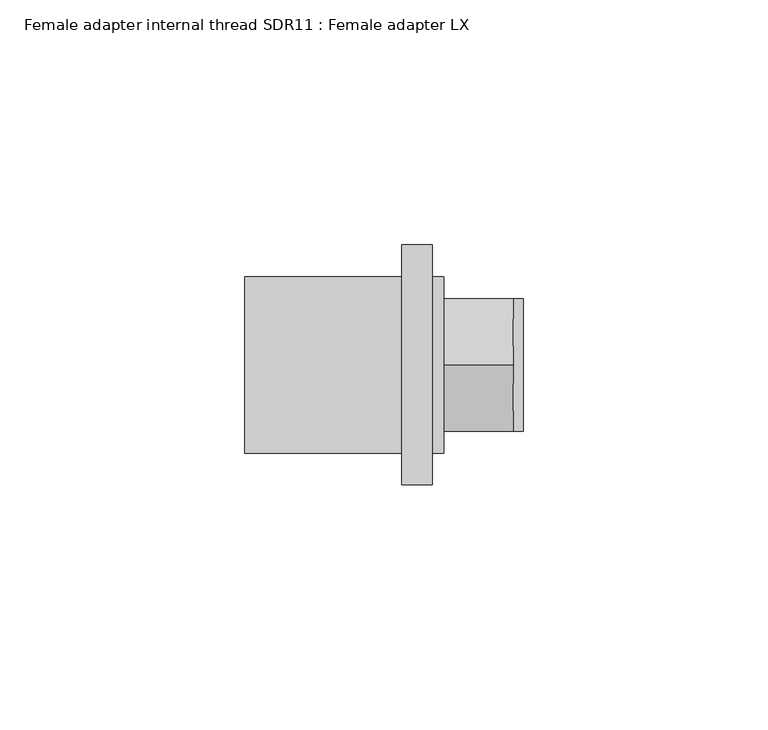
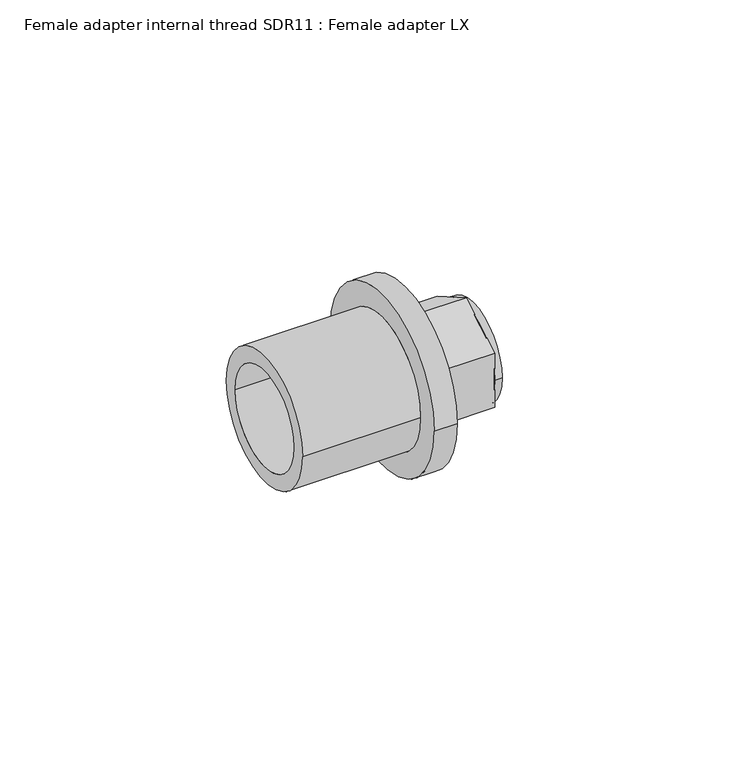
"""IFC4 building model written with IfcOpenShell, lengths in millimetres: pipe fitting geometry, Female adapter internal thread SDR11 : Female adapter LX."""

from ifc_helpers import new_model, si_unit, point, frame, origin, origin_2d, place, context, project, spatial, polyline, circle_curve, trimmed, segment, composite_curve, outline, extrude, source, transform, mapped, element, save
from ifc_brep_helpers import plane_surface, cylinder_surface, revolved_surface, advanced_brep


def female_adapter_internal_thread_sdr11_female_adapter_lx_052b0fb5(model_context):
    return source(origin(), model_context, "Body", "SolidModel", [
        extrude(outline(composite_curve([segment(trimmed(circle_curve(origin_2d(), 13.5), [point((13.5, 0.0))], [point((-13.5, 0.0))], False, "CARTESIAN"), True, "CONTINUOUS"), segment(trimmed(circle_curve(origin_2d(), 13.5), [point((-13.5, 0.0))], [point((13.5, 0.0))], False, "CARTESIAN"), True, "CONTINUOUS")], self_intersect=False), holes=[composite_curve([segment(trimmed(circle_curve(origin_2d(), 9.4), [point((9.4, 0.0))], [point((-9.4, 0.0))], True, "CARTESIAN"), True, "CONTINUOUS"), segment(trimmed(circle_curve(origin_2d(), 9.4), [point((-9.4, 0.0))], [point((9.4, 0.0))], True, "CARTESIAN"), True, "CONTINUOUS")], self_intersect=False)]), frame((14.2, 0.0, 0.0), z_axis=(1.0, 0.0, 0.0), x_axis=(0.0, 1.0, 0.0)), (0.0, 0.0, 1.0), 2.0),
        advanced_brep(
        [(-8.6, 18.0, 0.0), (-8.6, -18.0, 0.0), (-40.6, -18.0, 0.0), (-40.6, 18.0, 0.0), (-2.3, 24.5, 0.0), (-2.3, -24.5, 0.0), (-8.6, -24.5, 0.0), (-8.6, 24.5, 0.0), (0.0, 18.0, 0.0), (0.0, -18.0, 0.0), (-2.3, -18.0, 0.0), (-2.3, 18.0, 0.0), (-40.6, 13.75, 0.0), (-40.6, -13.75, 0.0), (0.0, -13.75, 0.0), (0.0, 13.75, 0.0)],
        [
            (0, 1, circle_curve(frame((-8.6, 0.0, 0.0), z_axis=(-1.0, 0.0, 0.0), x_axis=(0.0, -1.0, 0.0)), 18.0)),
            (1, 2),
            (2, 3, circle_curve(frame((-40.6, 0.0, 0.0), z_axis=(1.0, 0.0, 0.0), x_axis=(0.0, -1.0, 0.0)), 18.0)),
            (3, 0),
            (4, 5, circle_curve(frame((-2.3, 0.0, 0.0), z_axis=(-1.0, 0.0, 0.0), x_axis=(0.0, -1.0, 0.0)), 24.5)),
            (5, 6),
            (6, 7, circle_curve(frame((-8.6, 0.0, 0.0), z_axis=(1.0, 0.0, 0.0), x_axis=(0.0, -1.0, 0.0)), 24.5)),
            (7, 4),
            (8, 9, circle_curve(frame((0.0, 0.0, 0.0), z_axis=(-1.0, 0.0, 0.0), x_axis=(0.0, -1.0, 0.0)), 18.0)),
            (9, 10),
            (10, 11, circle_curve(frame((-2.3, 0.0, 0.0), z_axis=(1.0, 0.0, 0.0), x_axis=(0.0, -1.0, 0.0)), 18.0)),
            (11, 8),
            (12, 13, circle_curve(frame((-40.6, 0.0, 0.0), z_axis=(-1.0, 0.0, 0.0), x_axis=(0.0, -1.0, 0.0)), 13.75)),
            (13, 14),
            (14, 15, circle_curve(frame((0.0, 0.0, 0.0), z_axis=(1.0, 0.0, 0.0), x_axis=(0.0, -1.0, 0.0)), 13.75)),
            (15, 12),
            (2, 3, circle_curve(frame((-40.6, 0.0, 0.0), z_axis=(-1.0, 0.0, 0.0), x_axis=(0.0, 1.0, 0.0)), 18.0)),
            (12, 13, circle_curve(frame((-40.6, 0.0, 0.0), z_axis=(1.0, 0.0, 0.0), x_axis=(0.0, 1.0, 0.0)), 13.75)),
            (1, 0, circle_curve(frame((-8.6, 0.0, 0.0), z_axis=(-1.0, 0.0, 0.0), x_axis=(0.0, 1.0, 0.0)), 18.0)),
            (6, 7, circle_curve(frame((-8.6, 0.0, 0.0), z_axis=(-1.0, 0.0, 0.0), x_axis=(0.0, 1.0, 0.0)), 24.5)),
            (5, 4, circle_curve(frame((-2.3, 0.0, 0.0), z_axis=(-1.0, 0.0, 0.0), x_axis=(0.0, 1.0, 0.0)), 24.5)),
            (10, 11, circle_curve(frame((-2.3, 0.0, 0.0), z_axis=(-1.0, 0.0, 0.0), x_axis=(0.0, 1.0, 0.0)), 18.0)),
            (9, 8, circle_curve(frame((0.0, 0.0, 0.0), z_axis=(-1.0, 0.0, 0.0), x_axis=(0.0, 1.0, 0.0)), 18.0)),
            (14, 15, circle_curve(frame((0.0, 0.0, 0.0), z_axis=(-1.0, 0.0, 0.0), x_axis=(0.0, 1.0, 0.0)), 13.75)),
        ],
        [
            cylinder_surface(frame((0.0, 0.0, 0.0), z_axis=(1.0, 0.0, 0.0), x_axis=(0.0, -1.0, 0.0)), 18.0),
            cylinder_surface(frame((0.0, 0.0, 0.0), z_axis=(1.0, 0.0, 0.0), x_axis=(0.0, -1.0, 0.0)), 24.5),
            revolved_surface(polyline([(0.0, -13.75, 0.0), (-40.6, -13.75, 0.0)]), (0.0, 0.0, 0.0), (1.0, 0.0, 0.0)),
            plane_surface(frame((-40.6, 0.0, 0.0), z_axis=(-1.0, 0.0, 0.0), x_axis=(0.0, 1.0, 0.0))),
            cylinder_surface(frame((0.0, 0.0, 0.0), z_axis=(1.0, 0.0, 0.0), x_axis=(0.0, 1.0, 0.0)), 18.0),
            plane_surface(frame((-8.6, 0.0, 0.0), z_axis=(-1.0, 0.0, 0.0), x_axis=(0.0, 1.0, 0.0))),
            cylinder_surface(frame((0.0, 0.0, 0.0), z_axis=(1.0, 0.0, 0.0), x_axis=(0.0, 1.0, 0.0)), 24.5),
            plane_surface(frame((-2.3, 0.0, 0.0), z_axis=(1.0, 0.0, 0.0), x_axis=(0.0, 1.0, 0.0))),
            plane_surface(frame((0.0, 0.0, 0.0), z_axis=(1.0, 0.0, 0.0), x_axis=(0.0, 1.0, 0.0))),
            revolved_surface(polyline([(0.0, 13.75, 0.0), (-40.6, 13.75, 0.0)]), (0.0, 0.0, 0.0), (1.0, 0.0, 0.0)),
        ],
        [
            (0, [[1, 2, 3, 4]]),
            (1, [[5, 6, 7, 8]]),
            (0, [[9, 10, 11, 12]]),
            (2, [[13, 14, 15, 16]]),
            (3, [[17, -3], [18, -13]]),
            (4, [[19, -4, -17, -2]]),
            (5, [[20, -7], [-19, -1]]),
            (6, [[21, -8, -20, -6]]),
            (7, [[-21, -5], [22, -11]]),
            (4, [[23, -12, -22, -10]]),
            (8, [[-23, -9], [24, -15]]),
            (9, [[-18, -16, -24, -14]]),
        ],
    ),
        extrude(outline(polyline([(-13.5, 7.7942286), (0.0, 15.5884573), (13.5, 7.7942286), (13.5, -7.7942286), (0.0, -15.5884573), (-13.5, -7.7942286), (-13.5, 7.7942286)])), frame((0.0, 0.0, 0.0), z_axis=(1.0, 0.0, 0.0), x_axis=(0.0, 1.0, 0.0)), (0.0, 0.0, 1.0), 14.2),
    ])


if __name__ == "__main__":
    model = new_model("IFC4")
    model_context = context("Model", 3, world=origin())
    ifc_project = project(units=[si_unit("LENGTHUNIT", "METRE", prefix="MILLI")], contexts=[model_context])
    site = spatial("IfcSite", under=ifc_project)
    building = spatial("IfcBuilding", under=site)
    placement = place(None, origin())
    female_adapter_internal_thread_sdr11_female_adapter_lx_shape = female_adapter_internal_thread_sdr11_female_adapter_lx_052b0fb5(model_context)
    element("IfcPipeFitting", 1, ObjectType="Female adapter internal thread SDR11 : Female adapter LX", at=placement, inside=building, context=model_context, shape_type="MappedRepresentation", body=[
        mapped(female_adapter_internal_thread_sdr11_female_adapter_lx_shape, transform((0.0, 0.0, 0.0), x_axis=(1.0, 0.0, 0.0), y_axis=(0.0, 1.0, 0.0), z_axis=(0.0, 0.0, 1.0))),
    ])
    save(model, "model.ifc")
